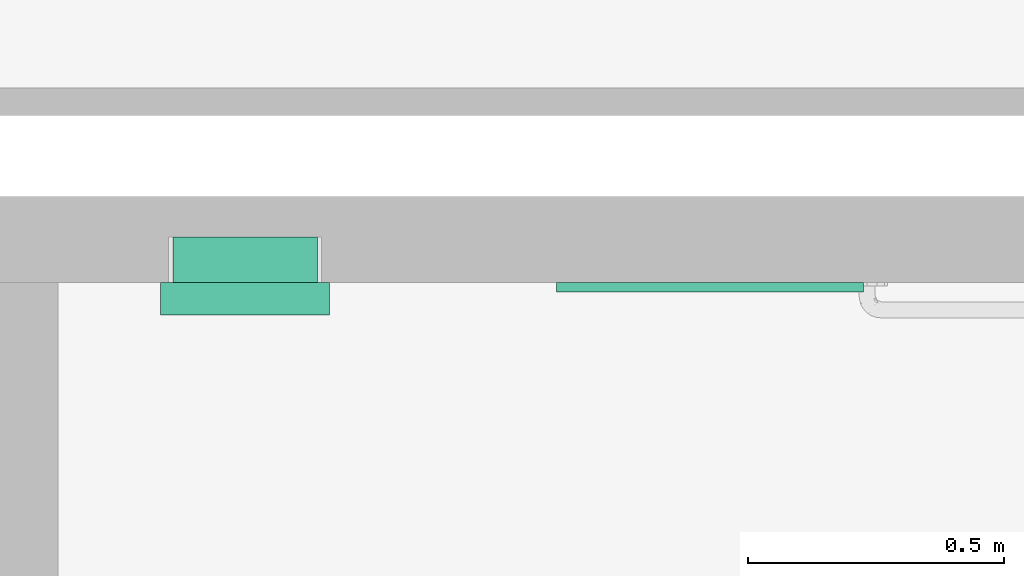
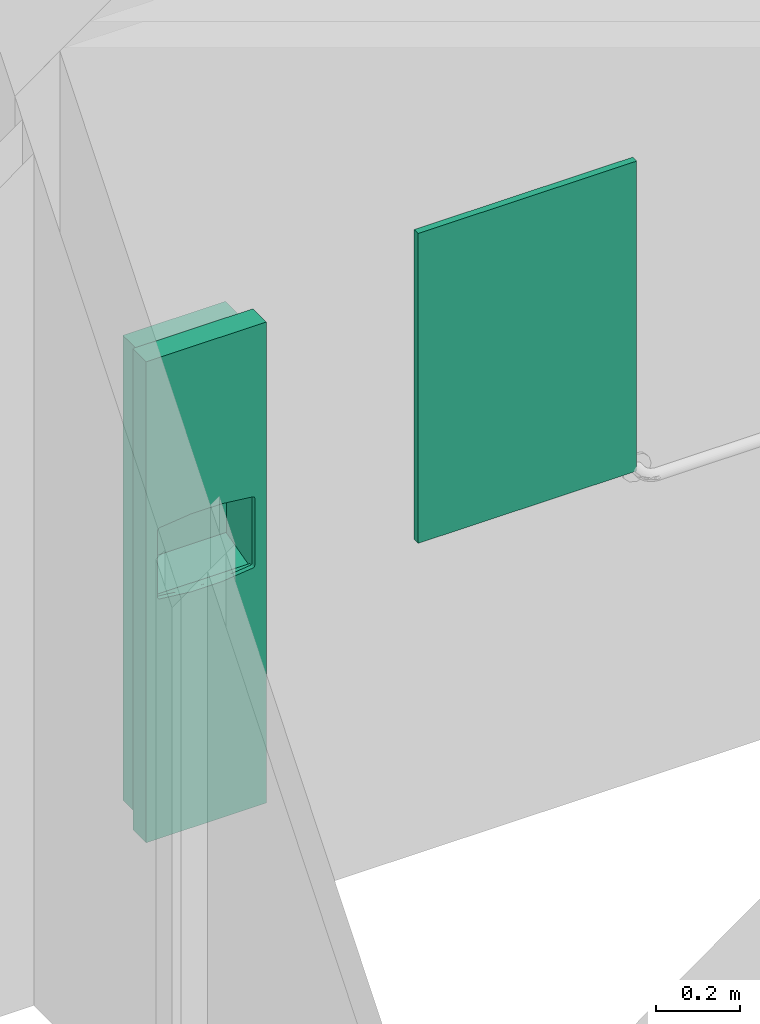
# One storey, part 36 of 47: 2 flow terminals.
"""IFC2X3 building model written with IfcOpenShell, lengths in metres."""

import ifcopenshell
import ifcopenshell.guid

model = None  # the IFC model being written
_history = None  # IfcOwnerHistory: only IFC2X3 demands one
_inside = {}  # id of a spatial element -> (the spatial element, [elements in it])
_under = {}  # id of a project, library or spatial element -> (it, [spatial elements below it])
_declared = {}  # id of a project -> (the project, [libraries it declares])
_typed = {}  # id of a type object -> (the type object, [elements of that type])
_made_of = {}  # id of a material, layer set ... -> (it, [elements and type objects made of it])


def new_model(schema):
    """Start an empty IFC model of exactly this schema.

    Asked for "IFC4X3", IfcOpenShell would pick the latest addendum, in which some entities
    have other attributes; the version numbers below select the first issue.
    IFC2X3 requires an IfcOwnerHistory on every rooted entity: one is made here for all.
    """
    global model, _history
    if schema == "IFC4X3":
        model = ifcopenshell.file(schema_version=(4, 3, 0, 0))
    else:
        model = ifcopenshell.file(schema=schema)
    _inside.clear()
    _under.clear()
    _declared.clear()
    _typed.clear()
    _made_of.clear()
    _history = None
    if model.schema == "IFC2X3":
        org = make("IfcOrganization", Name="unknown")
        user = make(
            "IfcPersonAndOrganization",
            ThePerson=make("IfcPerson", FamilyName="unknown"),
            TheOrganization=org,
        )
        app = make(
            "IfcApplication",
            ApplicationDeveloper=org,
            Version="unknown",
            ApplicationFullName="unknown",
            ApplicationIdentifier="unknown",
        )
        _history = make(
            "IfcOwnerHistory",
            OwningUser=user,
            OwningApplication=app,
            ChangeAction="ADDED",
            CreationDate=0,
        )
    return model


def make(cls, **values):
    """One entity of the class cls with the attributes given. An attribute that is None is left unset."""
    return model.create_entity(
        cls, **{name: value for name, value in values.items() if value is not None}
    )


def entity(cls, *values):
    """Any entity or typed value of the class cls, its attributes in the order of the schema. None: left unset."""
    e = model.create_entity(cls)
    for i, value in enumerate(values):
        if value is not None:
            e[i] = value
    return e


def rooted(cls, **values):
    """An entity with a GlobalId (a new one), such as an element, a storey or a relation."""
    return make(cls, GlobalId=ifcopenshell.guid.new(), OwnerHistory=_history, **values)


def si_unit(unit_type, name, prefix=None):
    """IfcSIUnit, for example si_unit("LENGTHUNIT", "METRE", prefix="MILLI")."""
    return make("IfcSIUnit", UnitType=unit_type, Prefix=prefix, Name=name)


def converted_unit(unit_type, name, factor, base, dimensions=None, offset=None):
    """IfcConversionBasedUnit, such as the inch: factor (a typed value) times the base unit."""
    return make(
        "IfcConversionBasedUnit"
        if offset is None
        else "IfcConversionBasedUnitWithOffset",
        ConversionOffset=offset,
        Dimensions=None
        if dimensions is None
        else entity("IfcDimensionalExponents", *dimensions),
        UnitType=unit_type,
        Name=name,
        ConversionFactor=make(
            "IfcMeasureWithUnit", ValueComponent=factor, UnitComponent=base
        ),
    )


def assignment(units):
    """IfcUnitAssignment: the units of a project."""
    return None if units is None else make("IfcUnitAssignment", Units=units)


def point(xyz):
    """IfcCartesianPoint."""
    return None if xyz is None else make("IfcCartesianPoint", Coordinates=xyz)


def direction(xyz):
    """IfcDirection."""
    return None if xyz is None else make("IfcDirection", DirectionRatios=xyz)


def frame(location, z_axis=None, x_axis=None):
    """IfcAxis2Placement3D, a coordinate frame: its origin and axes. An axis left out is left unset."""
    return make(
        "IfcAxis2Placement3D",
        Location=point(location),
        Axis=direction(z_axis),
        RefDirection=direction(x_axis),
    )


def frame_2d(location, x_axis=None):
    """IfcAxis2Placement2D, a coordinate frame in the plane: its origin and x axis."""
    return make(
        "IfcAxis2Placement2D", Location=point(location), RefDirection=direction(x_axis)
    )


def origin():
    """The frame at (0, 0, 0) with its axes left unset."""
    return frame((0.0, 0.0, 0.0))


def origin_2d_with_axis():
    """The frame at (0, 0) in the plane with the x axis (1, 0) written out."""
    return frame_2d((0.0, 0.0), x_axis=(1.0, 0.0))


def place(relative_to, where):
    """IfcLocalPlacement: puts the frame where relative to a parent placement (None: the world)."""
    return make(
        "IfcLocalPlacement", PlacementRelTo=relative_to, RelativePlacement=where
    )


def context(
    kind, dimensions, precision=None, world=None, true_north=None, identifier=None
):
    """IfcGeometricRepresentationContext, for example the 3D "Model" context."""
    return make(
        "IfcGeometricRepresentationContext",
        ContextIdentifier=identifier,
        ContextType=kind,
        CoordinateSpaceDimension=dimensions,
        Precision=precision,
        WorldCoordinateSystem=world,
        TrueNorth=true_north,
    )


def project(units=None, contexts=None):
    """IfcProject with its units and contexts."""
    return rooted(
        "IfcProject",
        Name="project",
        RepresentationContexts=contexts,
        UnitsInContext=assignment(units),
    )


def spatial(cls, under=None, at=None, **own):
    """A site, building, storey or space (cls), placed at a placement, below another one or the project."""
    s = rooted(cls, ObjectPlacement=at, **own)
    if under is not None:
        _under.setdefault(under.id(), (under, []))[1].append(s)
    return s


def profile(cls, at=None, kind="AREA", **sizes):
    """A parametric profile (cls). Its sizes go by their IFC names, for example OverallWidth=200.0."""
    return make(cls, ProfileType=kind, Position=at, **sizes)


def rectangle(**sizes):
    """IfcRectangleProfileDef."""
    return profile("IfcRectangleProfileDef", **sizes)


def extrude(swept, where, along, depth):
    """IfcExtrudedAreaSolid: the profile swept, set in the frame where, extruded along a direction by depth."""
    return make(
        "IfcExtrudedAreaSolid",
        SweptArea=swept,
        Position=where,
        ExtrudedDirection=direction(along),
        Depth=depth,
    )


def faces_of(points, faces, orient=None, outer=None):
    """IfcFace entities. A face is a list of loops; a loop is a list of indices into points, from 0.

    orient and outer hold one flag for each loop. By default every Orientation is true, the
    first loop of a face is its IfcFaceOuterBound and the others are IfcFaceBound.
    """
    made = []
    for i, loops in enumerate(faces):
        bounds = []
        for j, loop in enumerate(loops):
            is_outer = j == 0 if outer is None else outer[i][j]
            bounds.append(
                make(
                    "IfcFaceOuterBound" if is_outer else "IfcFaceBound",
                    Bound=make("IfcPolyLoop", Polygon=[points[k] for k in loop]),
                    Orientation=True if orient is None else orient[i][j],
                )
            )
        made.append(make("IfcFace", Bounds=bounds))
    return made


def face_set(faces, orient=None, outer=None):
    """The faces of one IfcConnectedFaceSet. surface_model builds it on its shared points."""
    return ("IfcConnectedFaceSet", faces, orient, outer)


def surface_model(cls, points, shells):
    """IfcFaceBasedSurfaceModel or IfcShellBasedSurfaceModel (cls): surfaces that need not close."""
    shared = [point(p) for p in points]
    made = [make(c, CfsFaces=faces_of(shared, fs, o, b)) for c, fs, o, b in shells]
    if cls == "IfcFaceBasedSurfaceModel":
        return make(cls, FbsmFaces=made)
    return make(cls, SbsmBoundary=made)


def shape(context_of_items, identifier, shape_type, items):
    """IfcShapeRepresentation: the items that make up one representation, for example the "Body"."""
    return make(
        "IfcShapeRepresentation",
        ContextOfItems=context_of_items,
        RepresentationIdentifier=identifier,
        RepresentationType=shape_type,
        Items=items,
    )


def source(mapping_origin, context_of_items, identifier, shape_type, items):
    """IfcRepresentationMap: a shape defined once, which mapped items show again and again."""
    return make(
        "IfcRepresentationMap",
        MappingOrigin=mapping_origin,
        MappedRepresentation=shape(context_of_items, identifier, shape_type, items),
    )


def transform(
    local_origin,
    x_axis=None,
    y_axis=None,
    z_axis=None,
    scale=None,
    scale2=None,
    scale3=None,
    uniform=True,
):
    """IfcCartesianTransformationOperator3D, or its non-uniform kind. x_axis, y_axis, z_axis: its Axis1, 2, 3."""
    if uniform:
        return make(
            "IfcCartesianTransformationOperator3D",
            Axis1=direction(x_axis),
            Axis2=direction(y_axis),
            LocalOrigin=point(local_origin),
            Scale=scale,
            Axis3=direction(z_axis),
        )
    return make(
        "IfcCartesianTransformationOperator3DnonUniform",
        Axis1=direction(x_axis),
        Axis2=direction(y_axis),
        LocalOrigin=point(local_origin),
        Scale=scale,
        Axis3=direction(z_axis),
        Scale2=scale2,
        Scale3=scale3,
    )


def mapped(mapping_source, mapping_target):
    """IfcMappedItem: shows the shape of a source again, moved by a transform."""
    return make(
        "IfcMappedItem", MappingSource=mapping_source, MappingTarget=mapping_target
    )


def made_of(thing, what):
    """Note that an element or type object is made of a material, layer set ...; save() writes the relation."""
    if what is not None:
        _made_of.setdefault(what.id(), (what, []))[1].append(thing)
    return thing


def type_object(cls, material=None, **own):
    """A type object (cls), such as IfcWallType, which elements share."""
    return made_of(rooted(cls, **own), material)


def type_shapes(of_type, sources):
    """Give a type object the sources (RepresentationMaps) that its elements show as mapped items."""
    of_type.RepresentationMaps = sources


def element(
    cls,
    number,
    at=None,
    inside=None,
    cuts=None,
    type_object=None,
    material=None,
    context=None,
    identifier="Body",
    shape_type=None,
    held_by="IfcProductDefinitionShape",
    body=None,
    shapes=None,
    **own,
):
    """One element of the class cls, such as IfcWall. Its Tag is "e" and its number.

    at: its placement. inside: the storey or other place that contains it. cuts: it is an
    opening in that element (IfcRelVoidsElement). A single representation is given by context,
    identifier, shape_type and body (its items); several are given by shapes. held_by: the class
    of the entity that holds the representations. save() writes the other relations.
    """
    e = rooted(cls, Tag="e%d" % number, ObjectPlacement=at, **own)
    if body is not None:
        shapes = [shape(context, identifier, shape_type, body)]
    if shapes is not None:
        e.Representation = make(held_by, Representations=shapes)
    if inside is not None:
        _inside.setdefault(inside.id(), (inside, []))[1].append(e)
    if cuts is not None:
        rooted(
            "IfcRelVoidsElement", RelatingBuildingElement=cuts, RelatedOpeningElement=e
        )
    if type_object is not None:
        _typed.setdefault(type_object.id(), (type_object, []))[1].append(e)
    return made_of(e, material)


def aggregate(whole, parts):
    """IfcRelAggregates: a whole, such as a stair, and the parts it consists of."""
    return rooted("IfcRelAggregates", RelatingObject=whole, RelatedObjects=parts)


def save(model, path):
    """Write the relations noted so far, then the file.

    IfcRelAggregates (storeys below a building ...), IfcRelContainedInSpatialStructure (elements
    in a storey), IfcRelDefinesByType, IfcRelAssociatesMaterial and IfcRelDeclares: one each for
    every whole, place, type object, material and project.
    """
    for whole, parts in _under.values():
        aggregate(whole, parts)
    for where, things in _inside.values():
        rooted(
            "IfcRelContainedInSpatialStructure",
            RelatedElements=things,
            RelatingStructure=where,
        )
    for kind, things in _typed.values():
        rooted("IfcRelDefinesByType", RelatedObjects=things, RelatingType=kind)
    for what, things in _made_of.values():
        rooted("IfcRelAssociatesMaterial", RelatedObjects=things, RelatingMaterial=what)
    for by, libraries in _declared.values():
        rooted("IfcRelDeclares", RelatingContext=by, RelatedDefinitions=libraries)
    model.write(path)


model = new_model("IFC2X3")

# Units and contexts
model_context = context("Model", 3, precision=1e-09, world=origin())
plan_context = context("Plan", 3, precision=1e-09, world=origin())
ifc_project = project(units=[si_unit("LENGTHUNIT", "METRE"), si_unit("AREAUNIT", "SQUARE_METRE"), si_unit("VOLUMEUNIT", "CUBIC_METRE"), converted_unit("PLANEANGLEUNIT", "DEGREE", entity("IfcRatioMeasure", 0.01745329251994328), si_unit("PLANEANGLEUNIT", "RADIAN"), dimensions=[0, 0, 0, 0, 0, 0, 0]), si_unit("TIMEUNIT", "SECOND")], contexts=[model_context, plan_context])

# Site, building, storey, space
site_placement = place(None, origin())
site = spatial("IfcSite", under=ifc_project, at=site_placement, Name="Default", CompositionType="ELEMENT")
building_placement = place(site_placement, origin())
building = spatial("IfcBuilding", under=site, at=building_placement, CompositionType="ELEMENT")
storey_placement = place(building_placement, frame((0.0, 0.0, 4.570000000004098)))
storey = spatial("IfcBuildingStorey", under=building, at=storey_placement, Name="Second Floor", CompositionType="ELEMENT", Elevation=4.570000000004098)
space_placement = place(storey_placement, origin())
space = spatial("IfcSpace", under=storey, at=space_placement, Name="2B22", CompositionType="ELEMENT", InteriorOrExteriorSpace="INTERNAL")

# Flow terminals
sanitary_terminal_type_1 = type_object("IfcSanitaryTerminalType", Name="Mirror 600mm x 900mm", PredefinedType="NOTDEFINED")
shared_shape_1 = source(origin(), model_context, "Body", "SweptSolid", [
    extrude(rectangle(XDim=0.01905, YDim=0.5999999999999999, at=origin_2d_with_axis()), frame((0.02447030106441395, 0.093525, 1.0), z_axis=(0.0, 0.0, 1.0), x_axis=(0.0, -1.0, 0.0)), (0.0, 0.0, 1.0), 0.8999999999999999),
])
type_shapes(sanitary_terminal_type_1, [shared_shape_1])
flow_terminal_1_placement = place(space_placement, frame((-1.04252969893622, 14.69843871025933, -0.08499999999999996), z_axis=(0.0, 0.0, 1.0), x_axis=(-1.0, 0.0, 0.0)))
element("IfcFlowTerminal", 1, at=flow_terminal_1_placement, inside=space, type_object=sanitary_terminal_type_1, Name="M_Mirror:Mirror 600mm x 900mm:Mirror 600mm x 900mm", ObjectType="Mirror 600mm x 900mm", context=model_context, shape_type="MappedRepresentation", body=[
    mapped(shared_shape_1, transform((0.0, 0.0, 0.0), scale=1.0)),
])
sanitary_terminal_type_2 = type_object("IfcSanitaryTerminalType", Name="Semi-Recessed", PredefinedType="NOTDEFINED")
shared_shape_2 = source(origin(), model_context, "Body", "SurfaceModel", [
    surface_model("IfcFaceBasedSurfaceModel", [(0.3047999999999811, 1.371600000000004, 0.006350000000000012), (0.02539999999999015, 1.371600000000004, 0.006350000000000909), (0.02539999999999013, 0.02540000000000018, 0.006350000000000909), (0.3047999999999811, 0.02540000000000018, 0.006350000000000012), (0.3047999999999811, 1.371600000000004, 0.0), (0.02539999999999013, 1.371600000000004, 0.0), (0.02539999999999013, 0.02540000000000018, 0.0), (0.3047999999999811, 0.02540000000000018, 0.0), (0.3047999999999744, 0.8683625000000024, 0.0314087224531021), (0.304799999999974, 0.8683625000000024, 0.0), (0.304799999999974, 1.371600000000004, 0.0), (0.3047999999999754, 1.371600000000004, 0.1396999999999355), (0.3047999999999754, 0.9274310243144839, 0.139699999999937), (0.3047999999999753, 0.9028355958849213, 0.1191121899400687), (0.304799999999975, 0.8840898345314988, 0.09308548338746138), (0.3047999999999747, 0.8723562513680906, 0.06323391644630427), (0.02539999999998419, 0.8683625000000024, 0.03140872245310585), (0.02539999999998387, 0.8683625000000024, 0.0), (0.02539999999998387, 1.371600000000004, 0.0), (0.02539999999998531, 1.371600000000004, 0.1396999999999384), (0.02539999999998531, 0.9274310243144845, 0.1396999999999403), (0.02539999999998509, 0.9028355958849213, 0.1191121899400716), (0.02539999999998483, 0.8840898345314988, 0.09308548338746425), (0.02539999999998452, 0.8723562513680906, 0.06323391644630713), (0.1650999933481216, 0.8971245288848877, 0.1125374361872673), (0.244423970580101, 0.8850007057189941, 0.0947267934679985), (0.3048000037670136, 0.8934627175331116, 0.1060988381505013), (0.225727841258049, 0.8897196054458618, 0.1024402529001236), (0.1240624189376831, 0.8936511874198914, 0.1080563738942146), (0.1443802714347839, 0.89626145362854, 0.1114614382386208), (0.02539999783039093, 0.8934627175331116, 0.1060988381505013), (0.2975995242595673, 0.8728225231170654, 0.06500939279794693), (0.2961554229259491, 0.8724397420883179, 0.06352298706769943), (0.08576729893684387, 0.8849983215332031, 0.09472260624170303), (0.05923719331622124, 0.8781034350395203, 0.0805450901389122), (0.06810294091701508, 0.8800443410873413, 0.08500713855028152), (0.02539999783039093, 0.8811564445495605, 0.08562259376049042), (0.03954862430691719, 0.8766331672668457, 0.07681932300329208), (0.04958875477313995, 0.8769928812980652, 0.07776296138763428), (0.02539999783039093, 0.8782230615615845, 0.07815969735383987), (0.03264534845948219, 0.875198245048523, 0.07281118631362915), (0.02539999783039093, 0.8767563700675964, 0.0744282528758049), (0.02539999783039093, 0.87602299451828, 0.07256253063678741), (0.2946777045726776, 0.8762261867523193, 0.07572414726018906), (0.3048000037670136, 0.8767563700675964, 0.0744282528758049), (0.3048000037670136, 0.8774896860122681, 0.07629397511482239), (0.2906513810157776, 0.8717893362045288, 0.0609215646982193), (0.3048000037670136, 0.871357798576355, 0.05527761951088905), (0.3048000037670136, 0.8718570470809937, 0.05925576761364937), (0.02539999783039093, 0.874556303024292, 0.06883108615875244), (0.03170676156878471, 0.8735430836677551, 0.0675705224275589), (0.03171554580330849, 0.8739543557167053, 0.06892137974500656), (0.104461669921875, 0.889717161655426, 0.1024366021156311), (0.02539999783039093, 0.8752896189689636, 0.07069680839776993), (0.03172433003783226, 0.8743656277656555, 0.07027223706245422), (0.03218483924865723, 0.8747819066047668, 0.07154171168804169), (0.185808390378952, 0.8962624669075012, 0.1114626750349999), (0.3048000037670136, 0.8703593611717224, 0.04732131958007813), (0.2280749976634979, 0.8709259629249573, 0.05697767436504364), (0.2061262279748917, 0.8936530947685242, 0.1080589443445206), (0.3048000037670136, 0.8752896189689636, 0.07069680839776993), (0.297547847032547, 0.8752022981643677, 0.07282306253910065), (0.2980738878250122, 0.8745774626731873, 0.0708826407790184), (0.2985999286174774, 0.8739525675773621, 0.06894221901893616), (0.3048000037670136, 0.874556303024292, 0.06883108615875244), (0.2709419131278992, 0.8781068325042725, 0.08055329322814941), (0.3048000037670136, 0.8811564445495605, 0.08562259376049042), (0.2620970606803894, 0.8800443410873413, 0.08500713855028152), (0.2805894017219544, 0.8769944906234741, 0.07776710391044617), (0.3048000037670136, 0.8782230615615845, 0.07815969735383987), (0.03435983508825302, 0.8722586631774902, 0.06284872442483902), (0.02539999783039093, 0.872106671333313, 0.06124484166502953), (0.0367727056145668, 0.8719081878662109, 0.06142202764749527), (0.2906513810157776, 0.8766331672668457, 0.07681932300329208), (0.02539999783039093, 0.8718570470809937, 0.05925576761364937), (0.3048000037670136, 0.8738229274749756, 0.06696536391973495), (0.2980997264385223, 0.8733875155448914, 0.06697580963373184), (0.3048000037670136, 0.872106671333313, 0.06124484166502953), (0.2947112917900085, 0.8720570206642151, 0.06203658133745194), (0.02539999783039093, 0.8738229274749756, 0.06696536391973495), (0.3048000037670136, 0.873089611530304, 0.06509964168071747), (0.02539999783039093, 0.8774896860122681, 0.07629397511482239), (0.03438528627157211, 0.8759323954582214, 0.07491400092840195), (0.03677724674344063, 0.8764464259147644, 0.07632055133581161), (0.03261014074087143, 0.8728178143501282, 0.0649920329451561), (0.02539999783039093, 0.8703593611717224, 0.04732131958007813), (0.1650999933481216, 0.8683624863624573, 0.03140872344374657), (0.03954862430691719, 0.8717893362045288, 0.0609215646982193), (0.1021250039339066, 0.8709259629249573, 0.05697767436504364), (0.02539999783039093, 0.871357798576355, 0.05527761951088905), (0.02539999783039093, 0.873089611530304, 0.06509964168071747), (0.2961127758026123, 0.8757142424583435, 0.07427360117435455), (0.3048000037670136, 0.87602299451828, 0.07256253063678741), (0.1650999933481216, 0.8701865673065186, 0.05300865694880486), (0.03954862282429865, 0.9617593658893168, 0.06092156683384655), (0.1650999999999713, 0.9617593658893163, 0.05300865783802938), (0.2906513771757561, 0.9617593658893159, 0.06092156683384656), (0.2927086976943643, 0.9617593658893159, 0.06119241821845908), (0.2946258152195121, 0.9617593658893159, 0.06198651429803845), (0.2962720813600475, 0.9617593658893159, 0.06324973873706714), (0.2975353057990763, 0.9617593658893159, 0.06489600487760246), (0.2983294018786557, 0.9617593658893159, 0.06681312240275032), (0.2986002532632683, 0.9617593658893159, 0.06887044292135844), (0.2983294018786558, 0.9617593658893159, 0.07092776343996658), (0.2975353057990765, 0.9617593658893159, 0.0728448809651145), (0.2962720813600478, 0.9617593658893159, 0.07449114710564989), (0.2946258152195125, 0.9617593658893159, 0.07575437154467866), (0.2927086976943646, 0.9617593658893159, 0.07654846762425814), (0.2906513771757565, 0.9617593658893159, 0.07681931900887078), (0.2806776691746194, 0.9617593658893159, 0.07775040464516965), (0.2710486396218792, 0.9617593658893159, 0.0805114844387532), (0.2620970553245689, 0.9617593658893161, 0.0850071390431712), (0.2316919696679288, 0.9617593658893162, 0.1002429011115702), (0.1989754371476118, 0.9617593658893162, 0.1095287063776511), (0.1651000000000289, 0.9617593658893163, 0.1125374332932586), (0.1312245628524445, 0.9617593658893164, 0.109528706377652), (0.09850803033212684, 0.9617593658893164, 0.1002429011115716), (0.06810294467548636, 0.9617593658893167, 0.08500713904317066), (0.05915136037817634, 0.9617593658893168, 0.08051148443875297), (0.04952233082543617, 0.9617593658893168, 0.07775040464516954), (0.03954862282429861, 0.9617593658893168, 0.07681931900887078), (0.03749130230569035, 0.9617593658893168, 0.0765484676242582), (0.03557418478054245, 0.9617593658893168, 0.07575437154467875), (0.03392791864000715, 0.9617593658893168, 0.07449114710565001), (0.03266469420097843, 0.9617593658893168, 0.07284488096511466), (0.03187059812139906, 0.9617593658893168, 0.07092776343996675), (0.03159974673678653, 0.9617593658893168, 0.06887044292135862), (0.03187059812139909, 0.9617593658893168, 0.06681312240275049), (0.03266469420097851, 0.9617593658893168, 0.0648960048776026), (0.03392791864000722, 0.9617593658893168, 0.06324973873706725), (0.03557418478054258, 0.9617593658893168, 0.06198651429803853), (0.03749130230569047, 0.9617593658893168, 0.06119241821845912), (0.3302000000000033, 1.397000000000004, 0.1523999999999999), (0.0, 1.397000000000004, 0.152400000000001), (0.0, 0.0, 0.152400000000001), (0.3302000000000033, 0.0, 0.1523999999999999), (0.03175000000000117, 0.7016793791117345, 0.1524000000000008), (0.03175000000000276, 0.8960819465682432, 0.1524000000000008), (0.03192255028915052, 0.8975521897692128, 0.1524000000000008), (0.03243082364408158, 0.8989425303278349, 0.1524000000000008), (0.03324719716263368, 0.9001774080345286, 0.1524000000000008), (0.03432730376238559, 0.9011897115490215, 0.1524000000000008), (0.03561244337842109, 0.9019244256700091, 0.1524000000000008), (0.03703277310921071, 0.9023416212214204, 0.1524000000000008), (0.1222300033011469, 0.9119737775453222, 0.1524000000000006), (0.2079699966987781, 0.911973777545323, 0.1524000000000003), (0.2931672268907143, 0.902341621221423, 0.1524), (0.2945875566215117, 0.9019244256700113, 0.1524), (0.2958726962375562, 0.9011897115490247, 0.1524), (0.2969528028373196, 0.9001774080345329, 0.1524), (0.297769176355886, 0.8989425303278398, 0.1524), (0.2982774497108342, 0.8975521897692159, 0.1524), (0.2984500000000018, 0.8960819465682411, 0.1524), (0.2984500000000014, 0.7016793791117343, 0.1524), (0.2982774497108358, 0.7002091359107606, 0.1524), (0.2977691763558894, 0.6988187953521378, 0.1524), (0.2969528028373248, 0.697583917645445, 0.1524), (0.2958726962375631, 0.6965716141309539, 0.1524), (0.29458755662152, 0.6958369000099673, 0.1524), (0.2931672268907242, 0.6954197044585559, 0.1524), (0.2079699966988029, 0.6857875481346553, 0.1524000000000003), (0.1222300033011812, 0.6857875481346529, 0.1524000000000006), (0.03703277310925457, 0.6954197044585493, 0.1524000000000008), (0.03561244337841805, 0.6958369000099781, 0.1524000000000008), (0.0343273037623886, 0.6965716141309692, 0.1524000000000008), (0.03324719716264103, 0.6975839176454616, 0.1524000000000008), (0.03243082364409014, 0.698818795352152, 0.1524000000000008), (0.03192255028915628, 0.7002091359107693, 0.1524000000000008), (0.3063874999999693, 1.373187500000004, 0.0), (0.02381249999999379, 1.373187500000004, 0.0), (0.02381249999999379, 0.02381250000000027, 0.0), (0.3063874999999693, 0.02381250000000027, 0.0), (0.3047999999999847, 1.371600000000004, 0.0), (0.3047999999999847, 0.02540000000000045, 0.0), (0.02539999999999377, 0.02540000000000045, 0.0), (0.02539999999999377, 1.371600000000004, 0.0), (0.304799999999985, 1.371600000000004, 0.08889999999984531), (0.3047999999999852, 1.371600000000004, 0.1396999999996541), (0.3047999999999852, 0.02540000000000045, 0.1396999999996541), (0.304799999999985, 0.02540000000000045, 0.08889999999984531), (0.02539999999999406, 0.02540000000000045, 0.08889999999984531), (0.02539999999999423, 0.02540000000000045, 0.139699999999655), (0.02539999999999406, 1.371600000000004, 0.08889999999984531), (0.02539999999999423, 1.371600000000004, 0.139699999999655), (0.02381249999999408, 1.373187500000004, 0.08889999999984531), (0.3063874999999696, 1.373187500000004, 0.08889999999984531), (0.02381249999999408, 0.02381250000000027, 0.08889999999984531), (0.3063874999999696, 0.02381250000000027, 0.08889999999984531), (0.3302000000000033, 1.397000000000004, 0.08889999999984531), (0.0, 1.397000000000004, 0.08889999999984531), (0.0, 0.0, 0.08889999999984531), (0.3302000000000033, 0.0, 0.08889999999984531), (0.3302000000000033, 1.397000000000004, 0.1396999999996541), (0.0, 1.397000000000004, 0.1396999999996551), (0.0, 0.0, 0.1396999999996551), (0.3302000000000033, 0.0, 0.1396999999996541), (0.0317500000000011, 0.7016793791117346, 0.139699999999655), (0.03175000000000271, 0.8960819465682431, 0.139699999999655), (0.03192255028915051, 0.8975521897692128, 0.139699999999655), (0.03243082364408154, 0.8989425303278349, 0.139699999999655), (0.03324719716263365, 0.9001774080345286, 0.139699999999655), (0.03432730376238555, 0.9011897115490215, 0.139699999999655), (0.03561244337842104, 0.9019244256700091, 0.139699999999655), (0.03703277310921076, 0.9023416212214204, 0.139699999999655), (0.1222300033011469, 0.9119737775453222, 0.1396999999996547), (0.207969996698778, 0.911973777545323, 0.1396999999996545), (0.2931672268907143, 0.902341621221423, 0.1396999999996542), (0.2945875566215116, 0.9019244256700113, 0.1396999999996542), (0.2958726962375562, 0.9011897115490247, 0.1396999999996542), (0.2969528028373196, 0.9001774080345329, 0.1396999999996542), (0.2977691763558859, 0.8989425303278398, 0.1396999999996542), (0.2982774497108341, 0.8975521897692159, 0.1396999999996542), (0.2984500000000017, 0.8960819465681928, 0.1396999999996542), (0.2984500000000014, 0.7016793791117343, 0.1396999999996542), (0.2982774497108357, 0.7002091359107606, 0.1396999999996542), (0.2977691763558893, 0.6988187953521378, 0.1396999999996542), (0.2969528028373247, 0.697583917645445, 0.1396999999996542), (0.295872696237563, 0.6965716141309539, 0.1396999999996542), (0.29458755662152, 0.6958369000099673, 0.1396999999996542), (0.2931672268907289, 0.6954197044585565, 0.1396999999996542), (0.2079699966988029, 0.6857875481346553, 0.1396999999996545), (0.1222300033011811, 0.6857875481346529, 0.1396999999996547), (0.0370327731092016, 0.6954197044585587, 0.139699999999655), (0.03561244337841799, 0.6958369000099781, 0.139699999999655), (0.03432730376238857, 0.6965716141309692, 0.139699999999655), (0.03324719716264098, 0.6975839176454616, 0.139699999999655), (0.03243082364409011, 0.698818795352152, 0.139699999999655), (0.03192255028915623, 0.7002091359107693, 0.139699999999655), (0.02698749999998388, 0.6774923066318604, 0.1206361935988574), (0.02698749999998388, 0.6858000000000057, 0.1206361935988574), (0.02698749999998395, 0.6858000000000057, 0.1397000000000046), (0.02698749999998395, 0.0253999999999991, 0.1397000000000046), (0.02698749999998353, 0.0253999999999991, 0.007937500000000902), (0.02698749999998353, 0.7076898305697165, 0.007937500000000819), (0.3032124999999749, 0.6774923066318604, 0.1206361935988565), (0.3032124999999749, 0.6858000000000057, 0.1206361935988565), (0.3032124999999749, 0.6858000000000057, 0.1397000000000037), (0.3032124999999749, 0.0253999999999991, 0.1397000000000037), (0.3032124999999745, 0.0253999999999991, 0.007937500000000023), (0.3032124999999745, 0.7076898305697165, 0.007937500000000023)], [face_set([[[0, 1, 2, 3]], [[4, 5, 6, 7]], [[1, 0, 4, 5]], [[2, 6, 5, 1]], [[3, 7, 6, 2]], [[0, 3, 7, 4]]]), face_set([[[8, 9, 10, 11, 12, 13, 14, 15]], [[16, 17, 18, 19, 20, 21, 22, 23]], [[9, 8, 16, 17]], [[10, 18, 17, 9]], [[11, 19, 18, 10]], [[12, 11, 19, 20]], [[24, 20, 21]], [[25, 26, 27]], [[28, 29, 21]], [[28, 21, 30]], [[15, 31, 32]], [[22, 33, 30]], [[24, 21, 29]], [[34, 35, 36]], [[37, 38, 39]], [[40, 41, 42]], [[39, 38, 34]], [[22, 35, 33]], [[39, 34, 36]], [[43, 44, 45]], [[46, 47, 48]], [[49, 50, 51]], [[33, 52, 30]], [[53, 54, 55]], [[24, 56, 13]], [[57, 47, 58]], [[24, 13, 12]], [[13, 56, 59]], [[59, 27, 26]], [[60, 61, 62]], [[62, 63, 64]], [[24, 12, 20]], [[55, 42, 53]], [[65, 66, 67]], [[25, 67, 14]], [[25, 14, 26]], [[65, 68, 69]], [[66, 65, 69]], [[70, 71, 72]], [[69, 68, 73]], [[72, 71, 74]], [[26, 13, 59]], [[54, 53, 49]], [[64, 60, 62]], [[75, 63, 76]], [[46, 77, 78]], [[79, 50, 49]], [[80, 76, 31]], [[39, 81, 37]], [[41, 82, 81]], [[49, 51, 54]], [[81, 82, 83]], [[40, 82, 41]], [[70, 84, 23]], [[84, 50, 79]], [[85, 16, 86]], [[28, 30, 52]], [[70, 23, 71]], [[87, 72, 74]], [[85, 88, 89]], [[87, 89, 88]], [[74, 89, 87]], [[84, 90, 23]], [[58, 47, 46]], [[35, 22, 36]], [[63, 75, 64]], [[91, 61, 92]], [[45, 73, 43]], [[80, 75, 76]], [[61, 60, 92]], [[15, 32, 78]], [[45, 69, 73]], [[92, 44, 91]], [[66, 14, 67]], [[84, 79, 90]], [[85, 93, 88]], [[86, 57, 93]], [[31, 15, 80]], [[77, 15, 78]], [[42, 55, 40]], [[58, 93, 57]], [[77, 46, 48]], [[8, 57, 86]], [[37, 81, 83]], [[44, 43, 91]], [[85, 86, 93]], [[94, 95, 96, 97, 98, 99, 100, 101, 102, 103, 104, 105, 106, 107, 108, 109, 110, 111, 112, 113, 114, 115, 116, 117, 118, 119, 120, 121, 122, 123, 124, 125, 126, 127, 128, 129, 130, 131]], [[95, 94, 87, 88, 93]], [[96, 95, 93, 58, 46]], [[46, 96, 97]], [[78, 98, 99]], [[97, 98, 78]], [[99, 100, 31]], [[46, 97, 78]], [[63, 31, 101]], [[31, 78, 99]], [[63, 101, 102]], [[101, 31, 100]], [[61, 104, 105]], [[43, 106, 107]], [[105, 106, 43]], [[73, 107, 108]], [[63, 103, 61]], [[103, 63, 102]], [[61, 103, 104]], [[61, 105, 43]], [[107, 73, 43]], [[108, 68, 73]], [[68, 108, 109]], [[109, 65, 68]], [[110, 67, 65]], [[67, 110, 111]], [[109, 110, 65]], [[111, 112, 25]], [[25, 67, 111]], [[27, 25, 112]], [[112, 59, 27]], [[113, 114, 56]], [[56, 59, 113]], [[24, 56, 114]], [[113, 59, 112]], [[114, 115, 29]], [[29, 24, 114]], [[28, 29, 115]], [[115, 116, 28]], [[116, 117, 33]], [[33, 52, 116]], [[35, 33, 117]], [[116, 52, 28]], [[118, 34, 35]], [[35, 117, 118]], [[118, 119, 34]], [[120, 37, 38]], [[38, 119, 120]], [[34, 119, 38]], [[37, 120, 121]], [[82, 122, 123]], [[121, 122, 83]], [[123, 124, 40]], [[37, 121, 83]], [[83, 122, 82]], [[40, 125, 54]], [[40, 82, 123]], [[54, 125, 126]], [[40, 124, 125]], [[84, 127, 128]], [[129, 84, 128]], [[72, 130, 131]], [[129, 130, 70]], [[87, 131, 94]], [[127, 50, 126]], [[127, 84, 50]], [[126, 50, 54]], [[70, 84, 129]], [[130, 72, 70]], [[131, 87, 72]]]), face_set([[[132, 133, 134, 135], [136, 137, 138, 139, 140, 141, 142, 143, 144, 145, 146, 147, 148, 149, 150, 151, 152, 153, 154, 155, 156, 157, 158, 159, 160, 161, 162, 163, 164, 165, 166, 167]], [[168, 169, 170, 171], [172, 173, 174, 175]], [[172, 176, 177, 178, 179, 173]], [[173, 174, 180, 181, 178, 179]], [[174, 175, 182, 183, 181, 180]], [[175, 182, 183, 177, 176, 172]], [[168, 169, 184, 185]], [[169, 184, 186, 170]], [[170, 186, 187, 171]], [[171, 168, 185, 187]], [[188, 189, 190, 191], [185, 187, 186, 184]], [[133, 132, 192, 188, 189, 193]], [[134, 133, 193, 189, 190, 194]], [[135, 134, 194, 190, 191, 195]], [[132, 135, 195, 191, 188, 192]], [[177, 183, 181, 178], [196, 197, 198, 199, 200, 201, 202, 203, 204, 205, 206, 207, 208, 209, 210, 211, 212, 213, 214, 215, 216, 217, 218, 219, 220, 221, 222, 223, 224, 225, 226, 227]], [[137, 136, 196, 197]], [[198, 197, 137, 138]], [[199, 198, 138, 139]], [[139, 140, 200, 199]], [[202, 201, 141, 142]], [[203, 202, 142, 143]], [[140, 141, 201, 200]], [[203, 143, 144, 204]], [[145, 205, 204, 144]], [[205, 145, 146, 206]], [[207, 206, 146, 147]], [[208, 207, 147, 148]], [[148, 149, 209, 208]], [[212, 211, 151, 152]], [[211, 210, 150, 151]], [[149, 150, 210, 209]], [[153, 213, 212, 152]], [[214, 213, 153, 154]], [[215, 214, 154, 155]], [[155, 156, 216, 215]], [[218, 217, 157, 158]], [[219, 218, 158, 159]], [[156, 157, 217, 216]], [[219, 159, 160, 220]], [[161, 221, 220, 160]], [[221, 161, 162, 222]], [[223, 222, 162, 163]], [[224, 223, 163, 164]], [[164, 165, 225, 224]], [[227, 226, 166, 167]], [[196, 227, 167, 136]], [[165, 166, 226, 225]]]), face_set([[[228, 229, 230, 231, 232, 233]], [[234, 235, 236, 237, 238, 239]], [[233, 228, 234, 239]], [[232, 238, 239, 233]], [[231, 237, 238, 232]], [[230, 231, 237, 236]], [[229, 230, 236, 235]], [[228, 234, 235, 229]]])]),
])
type_shapes(sanitary_terminal_type_2, [shared_shape_2])
flow_terminal_2_placement = place(space_placement, frame((-2.140000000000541, 14.70333871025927, 0.3428999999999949), z_axis=(0.0, -1.0, 0.0), x_axis=(1.0, 0.0, 0.0)))
element("IfcFlowTerminal", 2, at=flow_terminal_2_placement, inside=space, type_object=sanitary_terminal_type_2, Name="M_Towel Dispensers - receptical:Semi-Recessed:Semi-Recessed", ObjectType="Semi-Recessed", context=model_context, shape_type="MappedRepresentation", body=[
    mapped(shared_shape_2, transform((0.0, 0.0, 0.0), scale=1.0)),
])

save(model, "model.ifc")
